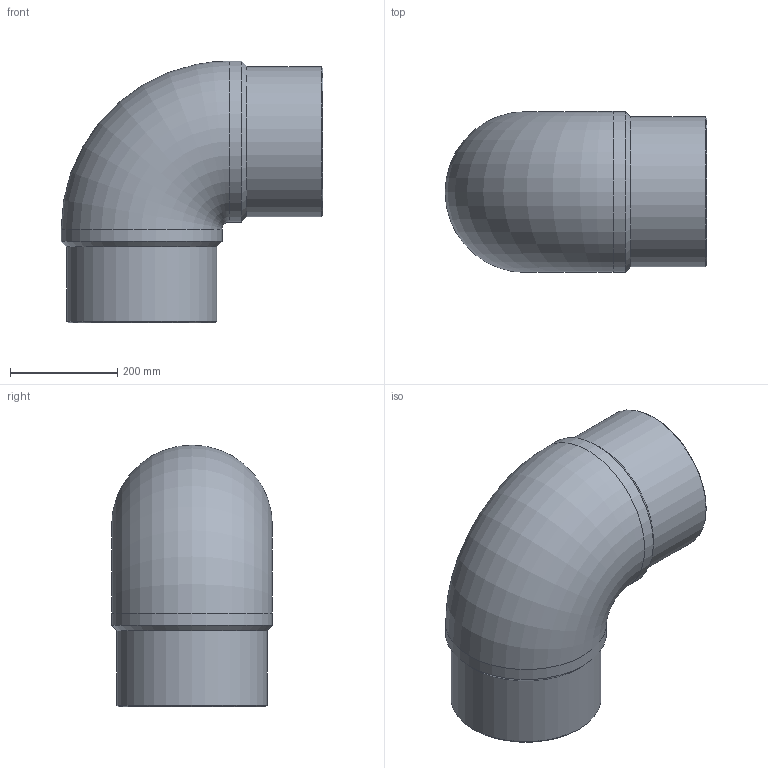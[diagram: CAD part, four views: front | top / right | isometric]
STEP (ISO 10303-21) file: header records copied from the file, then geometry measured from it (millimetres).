
FILE_DESCRIPTION(/* description */ ('Unknown'),/* implementation_level */ '2;1');
FILE_NAME(/* name */ 'G9P280G',/* time_stamp */ '2021-11-29T10:30:35+01:00',/* author */ ('Unknown'),/* organization */ ('Unknown'),/* preprocessor_version */ 'ST-DEVELOPER v16.7',/* originating_system */ 'Solid Edge',/* authorisation */ 'Unknown');
FILE_SCHEMA (('AUTOMOTIVE_DESIGN {1 0 10303 214 3 1 1}'));
Length unit declared in the file: millimetre
Products named in the file (1): G9P280G
Bounding box: 488 x 300 x 488 mm (x, y, z)
Volume: 17957273.5 mm3; surface area: 1022251.5 mm2
Topology: 1 solids, 1 shells, 14 faces, 34 edges, 22 vertices
Faces by surface type: cylinder 6, cone 4, plane 2, torus 2
Full cylindrical faces by diameter (mm): 217.4 x2, 280 x2, 300 x2
Entity records: 378 total; most frequent: CARTESIAN_POINT 78, DIRECTION 60, ORIENTED_EDGE 38, AXIS2_PLACEMENT_3D 30, EDGE_LOOP 27, FACE_BOUND 27, EDGE_CURVE 19, VERTEX_POINT 18
